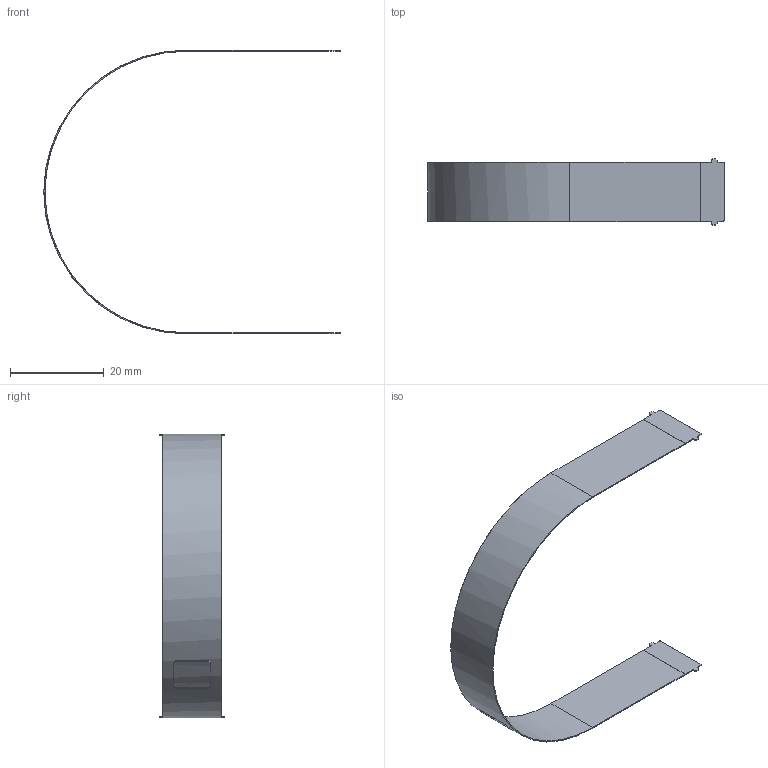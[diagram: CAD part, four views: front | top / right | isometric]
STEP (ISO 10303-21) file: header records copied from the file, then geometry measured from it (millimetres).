
FILE_DESCRIPTION(('Open CASCADE Model'),'2;1');
FILE_NAME('Open CASCADE Shape Model','2022-03-09T11:35:48',('Author'),( 'Open CASCADE'),'Open CASCADE STEP processor 6.8','Open CASCADE 6.8' ,'Unknown');
FILE_SCHEMA(('AUTOMOTIVE_DESIGN { 1 0 10303 214 1 1 1 1 }'));
Length unit declared in the file: millimetre
Products named in the file (15): PCB; Board; Open CASCADE STEP translator 6.8 5.1.1; Open CASCADE STEP translator 6.8 5.1.2; Open CASCADE STEP translator 6.8 5.1.3; Open CASCADE STEP translator 6.8 5.1.4; Open CASCADE STEP translator 6.8 5.1.5; Open CASCADE STEP translator 6.8 5.1.6; Open CASCADE STEP translator 6.8 5.1.7; Open CASCADE STEP translator 6.8 5.1.8; Open CASCADE STEP translator 6.8 5.1.9; Open CASCADE STEP translator 6.8 5.1.10; LA1; 6411200288; Extruded
Assembly tree (14 placements, depth 4):
  PCB
    Board
      Open CASCADE STEP translator 6.8 5.1.1
      Open CASCADE STEP translator 6.8 5.1.2
      Open CASCADE STEP translator 6.8 5.1.3
      Open CASCADE STEP translator 6.8 5.1.4
      Open CASCADE STEP translator 6.8 5.1.5
      Open CASCADE STEP translator 6.8 5.1.6
      Open CASCADE STEP translator 6.8 5.1.7
      Open CASCADE STEP translator 6.8 5.1.8
      Open CASCADE STEP translator 6.8 5.1.9
      Open CASCADE STEP translator 6.8 5.1.10
    LA1
      6411200288
        Extruded
Bounding box: 63.06 x 14 x 60.39 mm (x, y, z)
Volume: 444.5 mm3; surface area: 4239.2 mm2
Topology: 11 solids, 11 shells, 166 faces, 432 edges, 288 vertices
Faces by surface type: plane 164, cylinder 2
Entity records: 5350 total; most frequent: CARTESIAN_POINT 937, ORIENTED_EDGE 864, DIRECTION 786, EDGE_CURVE 432, LINE 424, VECTOR 424, VERTEX_POINT 288, AXIS2_PLACEMENT_3D 181
